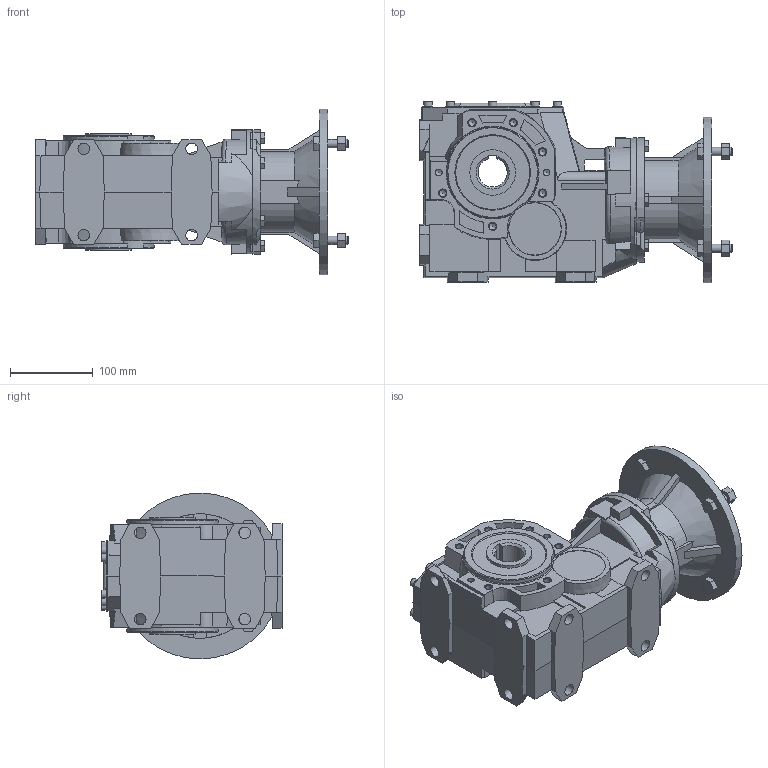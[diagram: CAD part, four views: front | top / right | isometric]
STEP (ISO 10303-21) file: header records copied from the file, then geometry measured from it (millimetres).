
FILE_DESCRIPTION(/* description */ ('STEP AP214'),/* implementation_level */ '2;1');
FILE_NAME(/* name */ 'B063UC80 B5350000000NO----(---------------)',/* time_stamp */ '2024-11-11T09:07:47+01:00',/* author */ ('License CC BY-ND 4.0'),/* organization */ ('CADENAS'),/* preprocessor_version */ 'ST-DEVELOPER v19.3',/* originating_system */ 'PARTsolutions',/* authorisation */ ' ');
FILE_SCHEMA (('AUTOMOTIVE_DESIGN {1 0 10303 214 3 1 1}'));
Length unit declared in the file: millimetre
Products named in the file (5): B063UC80 B5350000000NO----(---------------); 063-U-55; 063-35-C; 063-B-200x19(80 B51); B063-200x19
Assembly tree (4 placements, depth 2):
  B063UC80 B5350000000NO----(---------------)
    063-U-55
    063-35-C
    063-B-200x19(80 B51)
    B063-200x19
Bounding box: 377 x 219.1 x 200 mm (x, y, z)
Volume: 5849373.9 mm3; surface area: 478266.6 mm2
Topology: 4 solids, 4 shells, 760 faces, 1997 edges, 1310 vertices
Faces by surface type: plane 546, cylinder 137, cone 68, torus 9
Full cylindrical faces by diameter (mm): 5.46 x3, 8 x4, 8.376 x12, 10 x18, 12 x10, 14 x8, 32 x2, 55 x2, 110 x1, 130 x1, 150 x1, 200 x1
Entity records: 28010 total; most frequent: CARTESIAN_POINT 4336, ORIENTED_EDGE 3716, DIRECTION 3687, EDGE_CURVE 1858, LINE 1323, VECTOR 1323, VERTEX_POINT 1288, AXIS2_PLACEMENT_3D 1182
